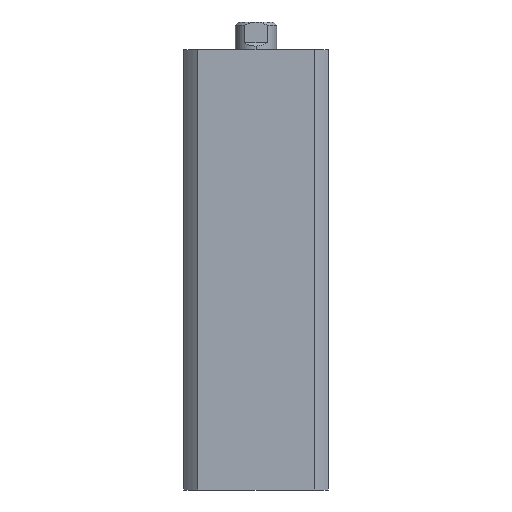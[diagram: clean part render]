
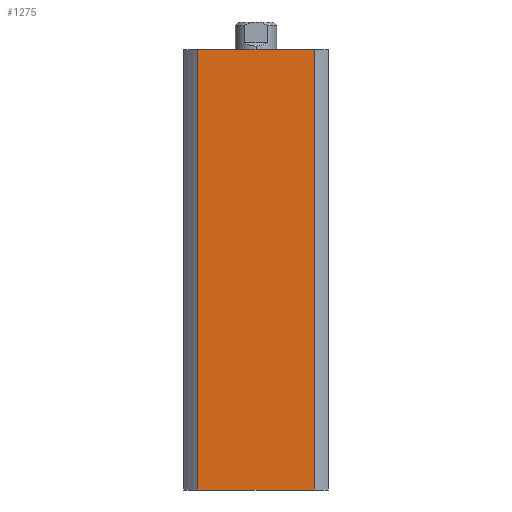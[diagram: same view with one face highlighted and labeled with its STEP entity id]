
A CAD part, left-side view. The second image highlights one B-rep face of the part: STEP entity #1275.
In plain terms, the highlighted planar face has unit normal (-1, 0, 0).
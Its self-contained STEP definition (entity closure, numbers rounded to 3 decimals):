
#136 = VERTEX_POINT ( 'NONE', #3652 ) ;
#138 = VERTEX_POINT ( 'NONE', #3646 ) ;
#141 = VERTEX_POINT ( 'NONE', #3643 ) ;
#163 = VERTEX_POINT ( 'NONE', #3620 ) ;
#294 = FACE_OUTER_BOUND ( 'NONE', #2764, .T. ) ;
#1275 = ADVANCED_FACE ( 'NONE', ( #294 ), #3612, .F. ) ;
#1430 = EDGE_CURVE ( 'NONE', #136, #163, #3131, .T. ) ;
#1438 = EDGE_CURVE ( 'NONE', #163, #141, #3147, .T. ) ;
#1439 = EDGE_CURVE ( 'NONE', #138, #136, #3149, .T. ) ;
#1974 = AXIS2_PLACEMENT_3D ( 'NONE', #3608, #3614, #4732 ) ;
#2015 = ORIENTED_EDGE ( 'NONE', *, *, #1439, .F. ) ;
#2016 = ORIENTED_EDGE ( 'NONE', *, *, #1430, .F. ) ;
#2017 = ORIENTED_EDGE ( 'NONE', *, *, #1438, .F. ) ;
#2404 = DIRECTION ( 'NONE',  ( 0., -1., 0. ) ) ;
#2410 = CARTESIAN_POINT ( 'NONE',  ( -21., 21., 128. ) ) ;
#2429 = CARTESIAN_POINT ( 'NONE',  ( -21., -16.971, 128. ) ) ;
#2430 = DIRECTION ( 'NONE',  ( 0., 0., -1. ) ) ;
#2431 = CARTESIAN_POINT ( 'NONE',  ( -21., 16.971, 128. ) ) ;
#2432 = DIRECTION ( 'NONE',  ( 0., 0., 1. ) ) ;
#2764 = EDGE_LOOP ( 'NONE', ( #2017, #2016, #2015, #5038 ) ) ;
#2912 = DIRECTION ( 'NONE',  ( 0., -1., 0. ) ) ;
#2916 = CARTESIAN_POINT ( 'NONE',  ( -21., 21., 0. ) ) ;
#3131 = LINE ( 'NONE', #2410, #3136 ) ;
#3136 = VECTOR ( 'NONE', #2404, 1000. ) ;
#3147 = LINE ( 'NONE', #2429, #3150 ) ;
#3149 = LINE ( 'NONE', #2431, #3152 ) ;
#3150 = VECTOR ( 'NONE', #2430, 1000. ) ;
#3152 = VECTOR ( 'NONE', #2432, 1000. ) ;
#3462 = EDGE_CURVE ( 'NONE', #138, #141, #4597, .T. ) ;
#3608 = CARTESIAN_POINT ( 'NONE',  ( -21., 21., 128. ) ) ;
#3612 = PLANE ( 'NONE',  #1974 ) ;
#3614 = DIRECTION ( 'NONE',  ( 1., 0., 0. ) ) ;
#3620 = CARTESIAN_POINT ( 'NONE',  ( -21., -16.971, 128. ) ) ;
#3643 = CARTESIAN_POINT ( 'NONE',  ( -21., -16.971, 0. ) ) ;
#3646 = CARTESIAN_POINT ( 'NONE',  ( -21., 16.971, 0. ) ) ;
#3652 = CARTESIAN_POINT ( 'NONE',  ( -21., 16.971, 128. ) ) ;
#4597 = LINE ( 'NONE', #2916, #4599 ) ;
#4599 = VECTOR ( 'NONE', #2912, 1000. ) ;
#4732 = DIRECTION ( 'NONE',  ( 0., 1., 0. ) ) ;
#5038 = ORIENTED_EDGE ( 'NONE', *, *, #3462, .T. ) ;
